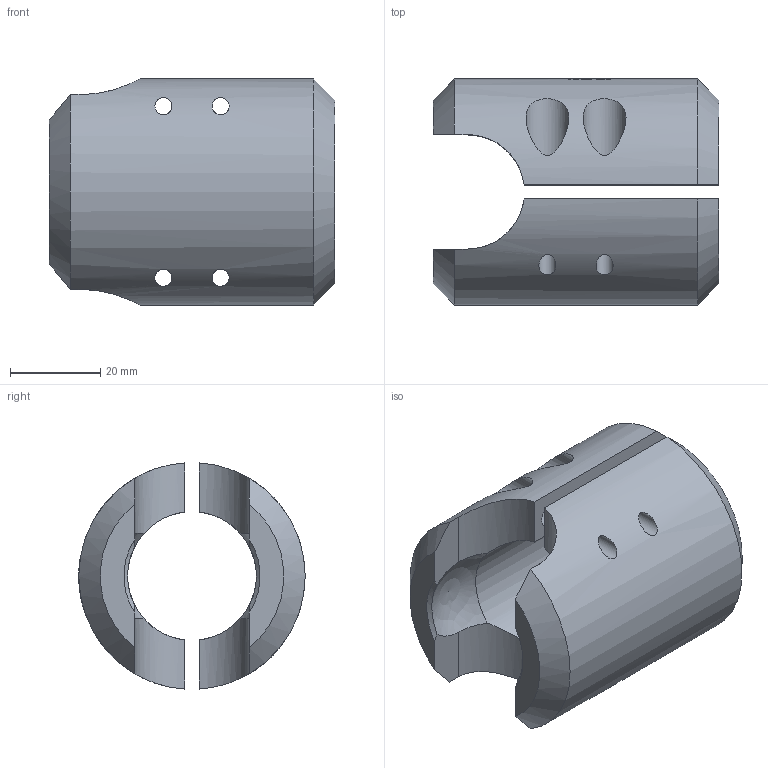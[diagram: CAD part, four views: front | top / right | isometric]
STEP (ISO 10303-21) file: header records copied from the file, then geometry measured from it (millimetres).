
FILE_DESCRIPTION (( 'STEP AP203' ), '1' );
FILE_NAME ('AFSB-290.STEP', '2020-03-09T13:30:37', ( '' ), ( '' ), 'SwSTEP 2.0', 'SolidWorks 2019', '' );
FILE_SCHEMA (( 'CONFIG_CONTROL_DESIGN' ));
Length unit declared in the file: inch
Products named in the file (1): AFSB-290
Bounding box: 63.5 x 50.3 x 50.2 mm (x, y, z)
Volume: 63528.2 mm3; surface area: 19304.8 mm2
Topology: 2 solids, 2 shells, 124 faces, 1230 edges, 1186 vertices
Faces by surface type: cylinder 96, plane 16, cone 8, sphere 4
Full cylindrical faces by diameter (mm): 3.797 x4, 5.613 x4, 9.525 x4
Entity records: 14996 total; most frequent: CARTESIAN_POINT 6598, ORIENTED_EDGE 2412, EDGE_CURVE 1206, VERTEX_POINT 1178, DIRECTION 984, B_SPLINE_CURVE_WITH_KNOTS 716, AXIS2_PLACEMENT_3D 369, VECTOR 246
